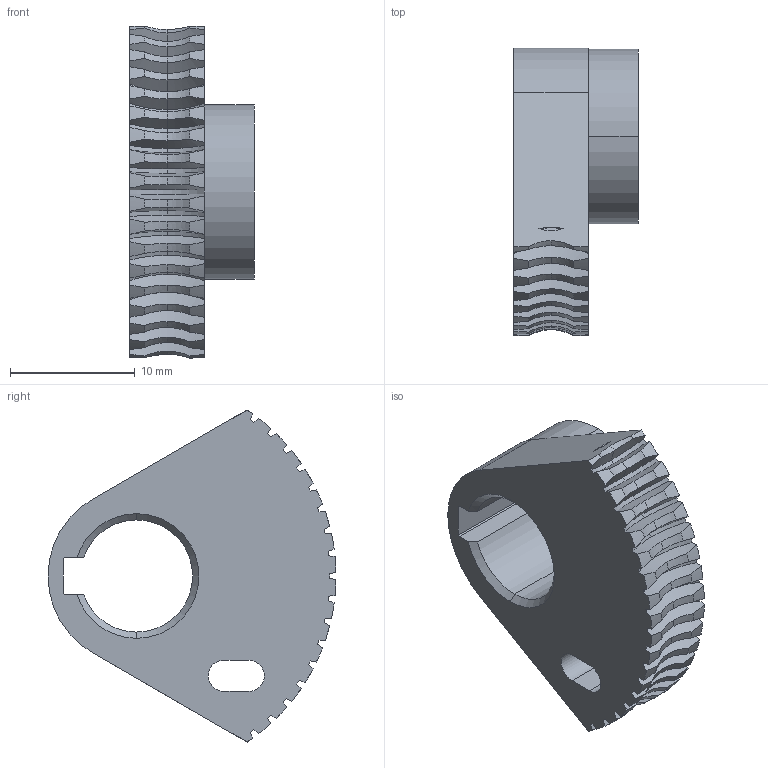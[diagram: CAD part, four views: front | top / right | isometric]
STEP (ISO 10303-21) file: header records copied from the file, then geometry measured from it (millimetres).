
FILE_DESCRIPTION (( 'STEP AP203' ), '1' );
FILE_NAME ('AMXY.09.02.1304 - Ñåêòîð ÷åðâÿ÷íûé.STEP', '2024-04-25T14:33:44', ( 'user' ), ( '' ), 'SwSTEP 2.0', 'SolidWorks 2022', '' );
FILE_SCHEMA (( 'CONFIG_CONTROL_DESIGN' ));
Length unit declared in the file: millimetre
Products named in the file (1): AMXY.09.02.1304 - Ñåêòîð ÷åðâÿ÷íûé
Bounding box: 10 x 23.1 x 26.64 mm (x, y, z)
Volume: 2196.3 mm3; surface area: 1808.7 mm2
Topology: 1 solids, 1 shells, 185 faces, 505 edges, 325 vertices
Faces by surface type: cylinder 81, cone 56, torus 36, plane 12
Entity records: 6386 total; most frequent: CARTESIAN_POINT 1897, ORIENTED_EDGE 1010, DIRECTION 839, EDGE_CURVE 505, AXIS2_PLACEMENT_3D 365, VERTEX_POINT 325, B_SPLINE_CURVE_WITH_KNOTS 213, EDGE_LOOP 192
